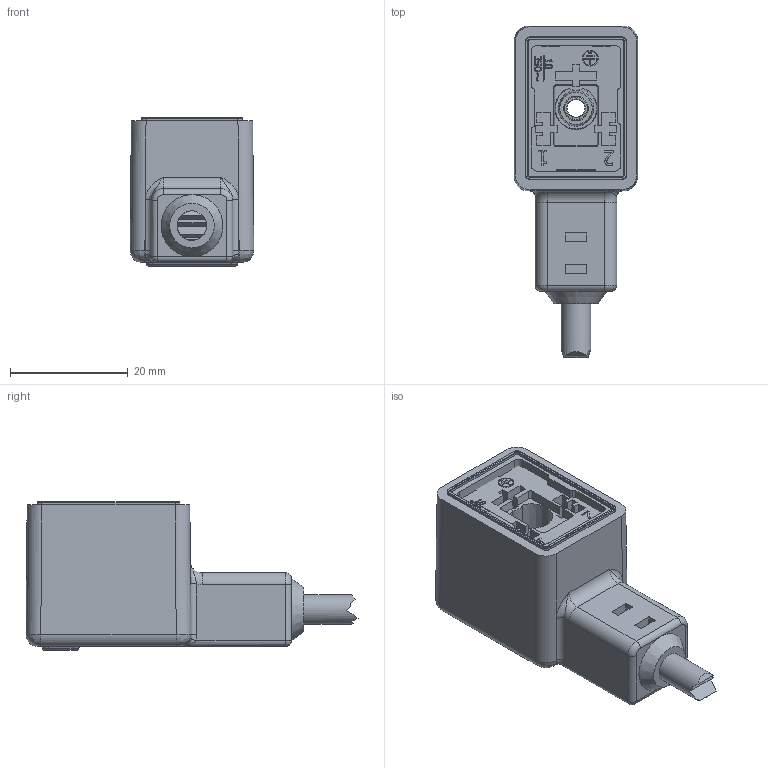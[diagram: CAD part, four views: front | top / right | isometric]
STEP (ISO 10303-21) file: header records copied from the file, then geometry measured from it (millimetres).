
FILE_DESCRIPTION((''),'2;1');
FILE_NAME('C:\Users\enrico\Desktop\Ale\File 3d catalogo\Connettori per attuatori Serie DIN\DIN B ISO.stp','2020-07-17T14:16:07',('Tecnico2'),(''),'Autodesk Inventor 2012','Autodesk Inventor 2012','');
FILE_SCHEMA(('AUTOMOTIVE_DESIGN { 1 0 10303 214 1 1 1 1 }'));
Length unit declared in the file: millimetre
Products named in the file (3): 48818_Din terra H12 forma B ISO; Corpo pvc forma B; connettore forma B ISO
Assembly tree (2 placements, depth 2):
  48818_Din terra H12 forma B ISO
    Corpo pvc forma B
    connettore forma B ISO
Bounding box: 20.96 x 56.28 x 25.1 mm (x, y, z)
Volume: 15132.7 mm3; surface area: 10115.6 mm2
Topology: 2 solids, 2 shells, 630 faces, 1705 edges, 1099 vertices
Faces by surface type: plane 347, cylinder 138, bspline 102, torus 25, cone 16, sphere 2
Full cylindrical faces by diameter (mm): 1.4 x1, 2.41 x1, 2.5 x2, 2.7 x1, 3 x1, 3.261 x1, 4 x1, 4.261 x1, 5 x1
Entity records: 22247 total; most frequent: CARTESIAN_POINT 6932, ORIENTED_EDGE 3332, DIRECTION 2848, EDGE_CURVE 1666, VECTOR 1110, LINE 1110, VERTEX_POINT 1090, AXIS2_PLACEMENT_3D 869
